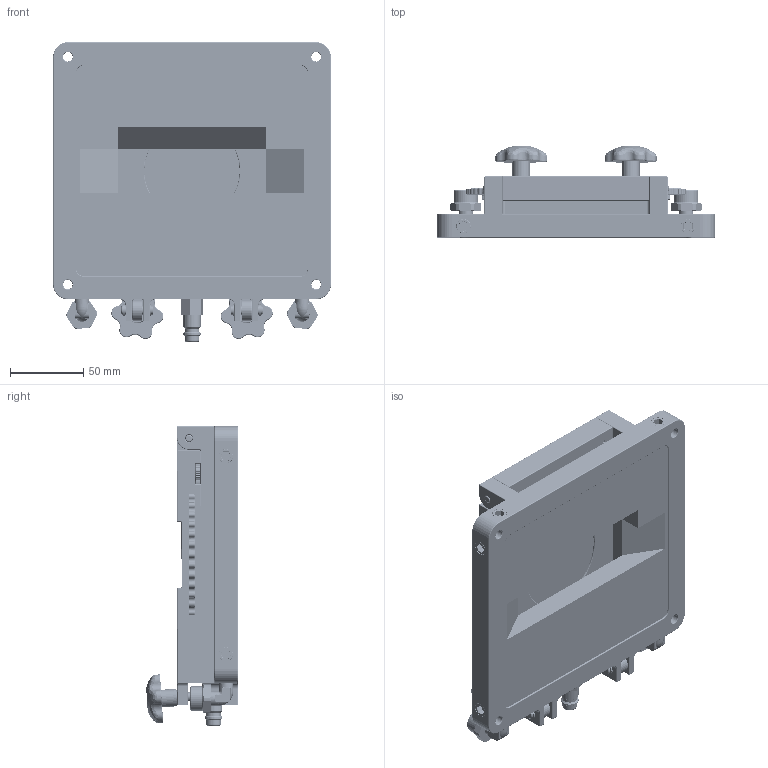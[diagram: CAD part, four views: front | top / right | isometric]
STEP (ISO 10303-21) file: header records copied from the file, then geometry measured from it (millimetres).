
FILE_DESCRIPTION (( 'STEP AP214' ), '1' );
FILE_NAME ('DUMMY AIRPURGE-LL FÜR STEP.STEP', '2018-10-04T14:10:26', ( 'admin' ), ( '' ), 'SwSTEP 2.0', 'SolidWorks 2017', '' );
FILE_SCHEMA (( 'AUTOMOTIVE_DESIGN' ));
Length unit declared in the file: metre
Products named in the file (17): 61405 Gewindestift ISK DIN913 A2 M4x5_DIN 913 - M2 x 5-S; 61202 Senkschraube KS DIN 965 A2 M2 x 6; 61411 Senkschraube A2-ISK DIN 7991 M4x10_ISO 7046-1 - M4 x 8 - Z --- 8S; 61328 Senkkopfschraube KS DIN 965 A2 M3 x 8_ISO 7046-1 - M3 x 8 - Z --- 8C; 64015 Verschlussstopfen ISK R1-8 MSV; 1P407 Fokusstellring-laminar; 61426-1 Rändelschraube DIN 653 M4x24; 61606 Zylinderstift 5m6x24; DUMMY AIRPURGE F鄄 STEP-2; 64017 Kupplungstecker-NW7,2 G1-8-IG MSV; 64016 Reduziernippel G3-8-G1-8 MSV; 64014 WINKEL 90° R1-8 MSV; 61603 Schwenkschraube mit Sterngriff M6; 61603-1 Schwenkschraube mit Sterngriff M6-Schaft; 61605 Strerngriff GG M6 Form D; DUMMY AIRPURGE-LL F鄄 STEP-1; DUMMY AIRPURGE-LL F鄄 STEP
Assembly tree (48 placements, depth 3):
  DUMMY AIRPURGE-LL F鄄 STEP
    DUMMY AIRPURGE-LL F鄄 STEP-1
    61605 Strerngriff GG M6 Form D  x2
    61603 Schwenkschraube mit Sterngriff M6  x2
      61603-1 Schwenkschraube mit Sterngriff M6-Schaft
    64014 WINKEL 90° R1-8 MSV  x2
    64016 Reduziernippel G3-8-G1-8 MSV  x2
    64017 Kupplungstecker-NW7,2 G1-8-IG MSV
    DUMMY AIRPURGE F鄄 STEP-2
    61606 Zylinderstift 5m6x24  x2
    61426-1 Rändelschraube DIN 653 M4x24  x2
    1P407 Fokusstellring-laminar
    64015 Verschlussstopfen ISK R1-8 MSV  x6
    61328 Senkkopfschraube KS DIN 965 A2 M3 x 8_ISO 7046-1 - M3 x 8 - Z --- 8C  x10
    61411 Senkschraube A2-ISK DIN 7991 M4x10_ISO 7046-1 - M4 x 8 - Z --- 8S  x8
    61202 Senkschraube KS DIN 965 A2 M2 x 6  x3
    61405 Gewindestift ISK DIN913 A2 M4x5_DIN 913 - M2 x 5-S  x4
Bounding box: 189 x 62.4 x 204.01 mm (x, y, z)
Volume: 887102.3 mm3; surface area: 211742.4 mm2
Topology: 47 solids, 47 shells, 6570 faces, 17269 edges, 10796 vertices
Faces by surface type: plane 2422, cylinder 2007, cone 1469, torus 313, bspline 302, sphere 57
Entity records: 126134 total; most frequent: CARTESIAN_POINT 37782, ORIENTED_EDGE 18836, DIRECTION 17531, EDGE_CURVE 9418, AXIS2_PLACEMENT_3D 6921, VERTEX_POINT 5892, EDGE_LOOP 3808, VECTOR 3689
